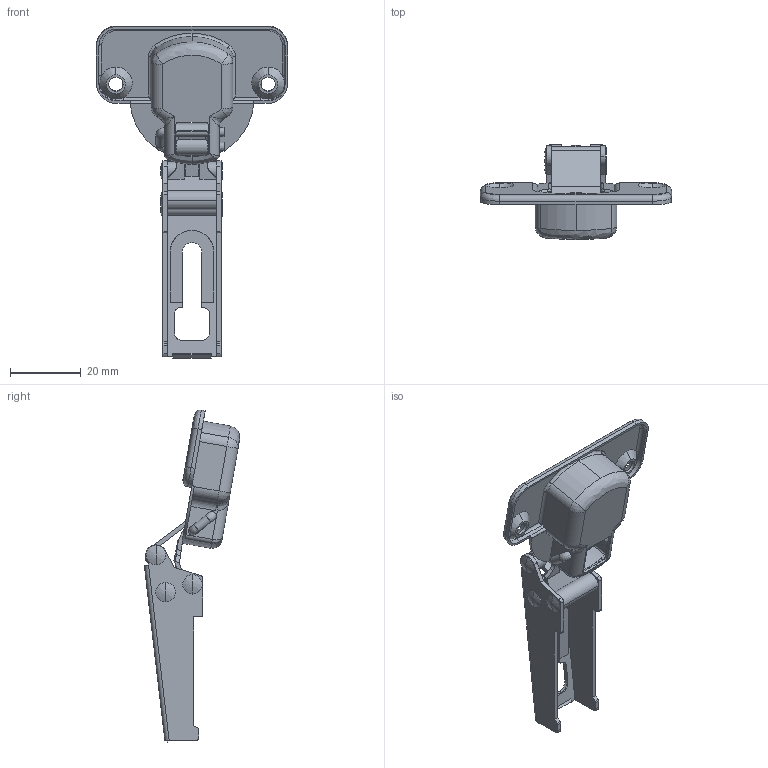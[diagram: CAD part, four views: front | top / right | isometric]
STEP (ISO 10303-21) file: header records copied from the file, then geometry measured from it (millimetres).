
FILE_DESCRIPTION (( 'STEP AP203' ), '1' );
FILE_NAME ('100_46_19.STEP', '2013-05-30T02:29:35', ( '' ), ( '' ), 'SwSTEP 2.0', 'SolidWorks 2012', '' );
FILE_SCHEMA (( 'CONFIG_CONTROL_DESIGN' ));
Length unit declared in the file: millimetre
Products named in the file (5): 100_46_19; 100SUS_socket; 100SUS_arm_B; 100SUS_arm_A; 100SUS_body_19
Assembly tree (4 placements, depth 2):
  100_46_19
    100SUS_body_19
    100SUS_arm_A
    100SUS_arm_B
    100SUS_socket
Bounding box: 54 x 26.93 x 93.83 mm (x, y, z)
Volume: 5988.7 mm3; surface area: 12514.5 mm2
Topology: 4 solids, 4 shells, 707 faces, 1861 edges, 1165 vertices
Faces by surface type: plane 316, cylinder 177, bspline 168, cone 34, torus 12
Entity records: 30831 total; most frequent: CARTESIAN_POINT 13935, ORIENTED_EDGE 3678, DIRECTION 3002, EDGE_CURVE 1839, VERTEX_POINT 1165, VECTOR 1092, LINE 1092, AXIS2_PLACEMENT_3D 955
